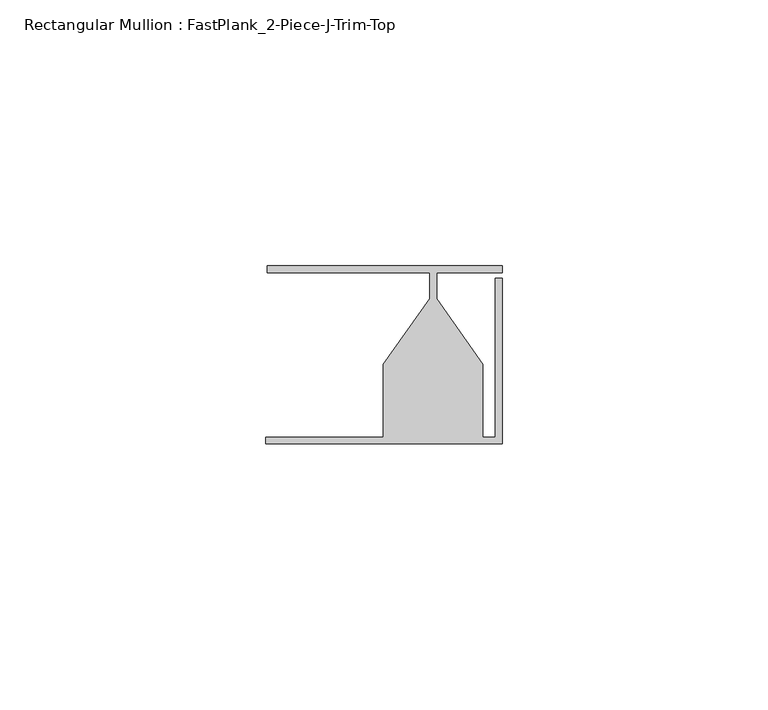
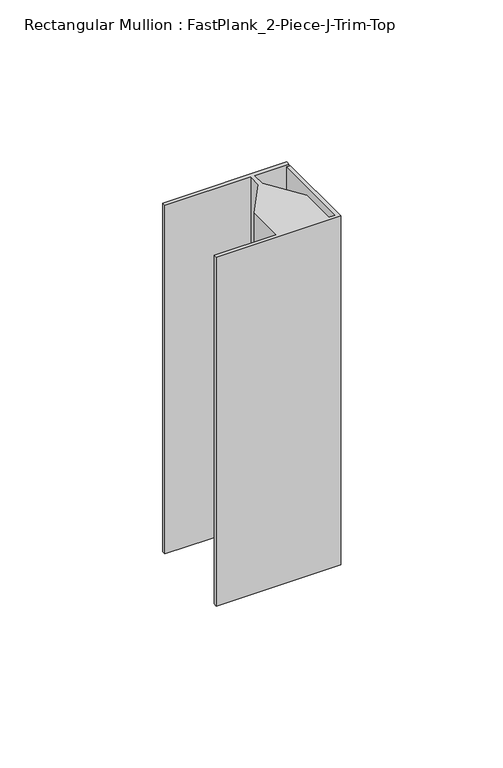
"""IFC4 building model written with IfcOpenShell, lengths in millimetres: member geometry, Rectangular Mullion : FastPlank_2-Piece-J-Trim-Top."""

from ifc_helpers import new_model, si_unit, frame, origin, place, context, project, spatial, polyline, outline, extrude, source, transform, mapped, element, save


def rectangular_mullion_fastplank_2_piece_j_trim_top_c2ded550(model_context):
    return source(origin(), model_context, "Body", "SweptSolid", [
        extrude(outline(polyline([(0.0, 11.8625052), (0.0, 10.5618154), (-12.3176464, 10.5618154), (-12.3176464, 5.7038113), (-3.6053348, -6.6543757), (-3.6053348, -20.3381228), (-1.2999974, -20.3381228), (-1.2999974, 9.5619969), (0.0, 9.5619969), (0.0, -21.6381202), (-44.4475015, -21.6381202), (-44.4475015, -20.3381228), (-22.3299553, -20.3381228), (-22.3299553, -6.6543757), (-13.6176438, 5.7038113), (-13.6176438, 10.5618154), (-44.2023711, 10.5618154), (-44.2023711, 11.8625052), (0.0, 11.8625052)])), frame((0.0, 0.0, -131.4383884), z_axis=(0.0, 0.0, 1.0), x_axis=(1.0, 0.0, 0.0)), (0.0, 0.0, 1.0), 131.4383884),
    ])


if __name__ == "__main__":
    model = new_model("IFC4")
    model_context = context("Model", 3, world=origin())
    ifc_project = project(units=[si_unit("LENGTHUNIT", "METRE", prefix="MILLI")], contexts=[model_context])
    site = spatial("IfcSite", under=ifc_project)
    building = spatial("IfcBuilding", under=site)
    placement = place(None, origin())
    rectangular_mullion_fastplank_2_piece_j_trim_top_shape = rectangular_mullion_fastplank_2_piece_j_trim_top_c2ded550(model_context)
    element("IfcMember", 1, ObjectType="Rectangular Mullion : FastPlank_2-Piece-J-Trim-Top", at=placement, inside=building, context=model_context, shape_type="MappedRepresentation", body=[
        mapped(rectangular_mullion_fastplank_2_piece_j_trim_top_shape, transform((0.0, 0.0, 0.0), x_axis=(1.0, 0.0, 0.0), y_axis=(0.0, 1.0, 0.0), z_axis=(0.0, 0.0, 1.0))),
    ])
    save(model, "model.ifc")
